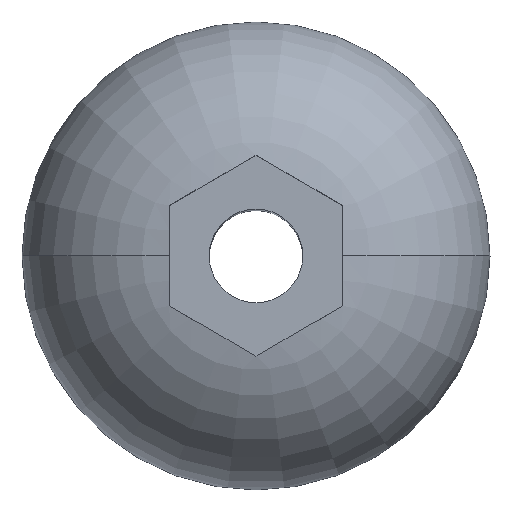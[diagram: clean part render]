
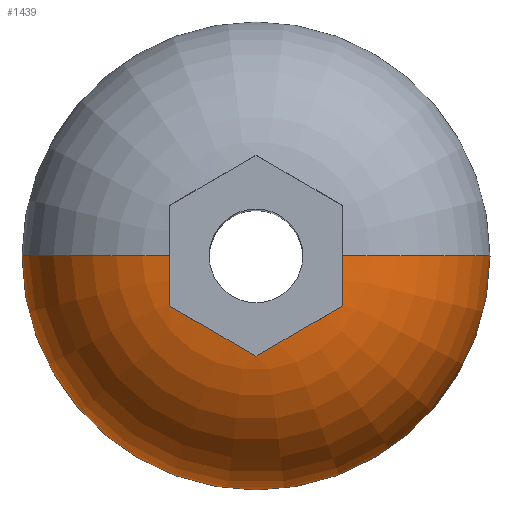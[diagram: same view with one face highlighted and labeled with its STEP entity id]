
A CAD part, top view. The second image highlights one B-rep face of the part: STEP entity #1439.
In plain terms, the highlighted toroidal (fillet/blend) face has major radius 0.501 mm and minor radius 1.25 mm.
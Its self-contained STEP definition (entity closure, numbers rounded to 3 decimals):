
#3 = VERTEX_POINT ( 'NONE', #189 ) ;
#14 = VERTEX_POINT ( 'NONE', #773 ) ;
#19 = EDGE_CURVE ( 'NONE', #1075, #870, #347, .T. ) ;
#26 = CARTESIAN_POINT ( 'NONE',  ( -0.65, -0.375, 1.275 ) ) ;
#55 = DIRECTION ( 'NONE',  ( 0., 1., 0. ) ) ;
#77 = DIRECTION ( 'NONE',  ( 1., 0., 0. ) ) ;
#103 = ORIENTED_EDGE ( 'NONE', *, *, #293, .F. ) ;
#116 = AXIS2_PLACEMENT_3D ( 'NONE', #895, #1939, #1335 ) ;
#162 = EDGE_CURVE ( 'NONE', #870, #979, #504, .T. ) ;
#189 = CARTESIAN_POINT ( 'NONE',  ( -1.75, 0., 0. ) ) ;
#207 = CARTESIAN_POINT ( 'NONE',  ( -0.65, -0.063, 1.291 ) ) ;
#221 = EDGE_CURVE ( 'NONE', #702, #14, #644, .T. ) ;
#250 = CARTESIAN_POINT ( 'NONE',  ( 0.65, -0.063, 1.291 ) ) ;
#273 = CARTESIAN_POINT ( 'NONE',  ( 0.108, -0.688, 1.288 ) ) ;
#293 = EDGE_CURVE ( 'NONE', #3, #979, #312, .T. ) ;
#312 = CIRCLE ( 'NONE', #1328, 1.25 ) ;
#347 = B_SPLINE_CURVE_WITH_KNOTS ( 'NONE', 3,
 ( #1101, #1825, #648, #1549, #26 ),
 .UNSPECIFIED., .F., .F.,
 ( 4, 1, 4 ),
 ( 0., 0., 0.001 ),
 .UNSPECIFIED. ) ;
#362 = CARTESIAN_POINT ( 'NONE',  ( 1.75, 0., 0. ) ) ;
#363 = DIRECTION ( 'NONE',  ( -1., 0., 0. ) ) ;
#367 = DIRECTION ( 'NONE',  ( 0., 0., 1. ) ) ;
#407 = CARTESIAN_POINT ( 'NONE',  ( 0.65, -0.126, 1.29 ) ) ;
#504 = B_SPLINE_CURVE_WITH_KNOTS ( 'NONE', 3,
 ( #962, #830, #1435, #1409, #207, #1575 ),
 .UNSPECIFIED., .F., .F.,
 ( 4, 2, 4 ),
 ( 0.009, 0.009, 0.009 ),
 .UNSPECIFIED. ) ;
#511 = ORIENTED_EDGE ( 'NONE', *, *, #19, .T. ) ;
#644 = CIRCLE ( 'NONE', #850, 1.25 ) ;
#648 = CARTESIAN_POINT ( 'NONE',  ( -0.325, -0.563, 1.295 ) ) ;
#702 = VERTEX_POINT ( 'NONE', #362 ) ;
#715 = CARTESIAN_POINT ( 'NONE',  ( 0.65, 0., 1.291 ) ) ;
#719 = CARTESIAN_POINT ( 'NONE',  ( 0.65, -0.375, 1.275 ) ) ;
#773 = CARTESIAN_POINT ( 'NONE',  ( 0.65, 0., 1.291 ) ) ;
#823 = CARTESIAN_POINT ( 'NONE',  ( 0.501, 0., 0.05 ) ) ;
#830 = CARTESIAN_POINT ( 'NONE',  ( -0.65, -0.313, 1.281 ) ) ;
#850 = AXIS2_PLACEMENT_3D ( 'NONE', #823, #1715, #1593 ) ;
#870 = VERTEX_POINT ( 'NONE', #1061 ) ;
#895 = CARTESIAN_POINT ( 'NONE',  ( 0., 0., 0.05 ) ) ;
#927 = ORIENTED_EDGE ( 'NONE', *, *, #1181, .T. ) ;
#936 = VERTEX_POINT ( 'NONE', #719 ) ;
#962 = CARTESIAN_POINT ( 'NONE',  ( -0.65, -0.375, 1.275 ) ) ;
#979 = VERTEX_POINT ( 'NONE', #1341 ) ;
#984 = EDGE_CURVE ( 'NONE', #936, #1075, #1414, .T. ) ;
#1061 = CARTESIAN_POINT ( 'NONE',  ( -0.65, -0.375, 1.275 ) ) ;
#1075 = VERTEX_POINT ( 'NONE', #1544 ) ;
#1101 = CARTESIAN_POINT ( 'NONE',  ( 0., -0.751, 1.275 ) ) ;
#1124 = B_SPLINE_CURVE_WITH_KNOTS ( 'NONE', 3,
 ( #715, #250, #407, #1461, #1622, #1627 ),
 .UNSPECIFIED., .F., .F.,
 ( 4, 2, 4 ),
 ( 0., 0., 0. ),
 .UNSPECIFIED. ) ;
#1139 = FACE_OUTER_BOUND ( 'NONE', #1357, .T. ) ;
#1181 = EDGE_CURVE ( 'NONE', #3, #702, #1366, .T. ) ;
#1182 = ORIENTED_EDGE ( 'NONE', *, *, #984, .T. ) ;
#1184 = CARTESIAN_POINT ( 'NONE',  ( 0.325, -0.563, 1.295 ) ) ;
#1287 = CARTESIAN_POINT ( 'NONE',  ( 0., 0., 0. ) ) ;
#1321 = TOROIDAL_SURFACE ( 'NONE', #116, 0.501, 1.25 ) ;
#1326 = EDGE_CURVE ( 'NONE', #14, #936, #1124, .T. ) ;
#1328 = AXIS2_PLACEMENT_3D ( 'NONE', #1540, #55, #363 ) ;
#1335 = DIRECTION ( 'NONE',  ( 1., 0., 0. ) ) ;
#1341 = CARTESIAN_POINT ( 'NONE',  ( -0.65, 0., 1.291 ) ) ;
#1357 = EDGE_LOOP ( 'NONE', ( #103, #927, #1943, #1606, #1182, #511, #1650 ) ) ;
#1366 = CIRCLE ( 'NONE', #1872, 1.75 ) ;
#1409 = CARTESIAN_POINT ( 'NONE',  ( -0.65, -0.125, 1.29 ) ) ;
#1414 = B_SPLINE_CURVE_WITH_KNOTS ( 'NONE', 3,
 ( #1647, #1784, #1184, #273, #1935 ),
 .UNSPECIFIED., .F., .F.,
 ( 4, 1, 4 ),
 ( 0., 0., 0.001 ),
 .UNSPECIFIED. ) ;
#1435 = CARTESIAN_POINT ( 'NONE',  ( -0.65, -0.251, 1.285 ) ) ;
#1439 = ADVANCED_FACE ( 'NONE', ( #1139 ), #1321, .T. ) ;
#1461 = CARTESIAN_POINT ( 'NONE',  ( 0.65, -0.251, 1.285 ) ) ;
#1540 = CARTESIAN_POINT ( 'NONE',  ( -0.501, 0., 0.05 ) ) ;
#1544 = CARTESIAN_POINT ( 'NONE',  ( 0., -0.751, 1.275 ) ) ;
#1549 = CARTESIAN_POINT ( 'NONE',  ( -0.542, -0.438, 1.288 ) ) ;
#1575 = CARTESIAN_POINT ( 'NONE',  ( -0.65, 0., 1.291 ) ) ;
#1593 = DIRECTION ( 'NONE',  ( 0., 0., -1. ) ) ;
#1606 = ORIENTED_EDGE ( 'NONE', *, *, #1326, .T. ) ;
#1622 = CARTESIAN_POINT ( 'NONE',  ( 0.65, -0.313, 1.281 ) ) ;
#1627 = CARTESIAN_POINT ( 'NONE',  ( 0.65, -0.375, 1.275 ) ) ;
#1647 = CARTESIAN_POINT ( 'NONE',  ( 0.65, -0.375, 1.275 ) ) ;
#1650 = ORIENTED_EDGE ( 'NONE', *, *, #162, .T. ) ;
#1715 = DIRECTION ( 'NONE',  ( 0., -1., 0. ) ) ;
#1784 = CARTESIAN_POINT ( 'NONE',  ( 0.542, -0.438, 1.288 ) ) ;
#1825 = CARTESIAN_POINT ( 'NONE',  ( -0.108, -0.688, 1.288 ) ) ;
#1872 = AXIS2_PLACEMENT_3D ( 'NONE', #1287, #367, #77 ) ;
#1935 = CARTESIAN_POINT ( 'NONE',  ( 0., -0.751, 1.275 ) ) ;
#1939 = DIRECTION ( 'NONE',  ( 0., 0., 1. ) ) ;
#1943 = ORIENTED_EDGE ( 'NONE', *, *, #221, .T. ) ;
